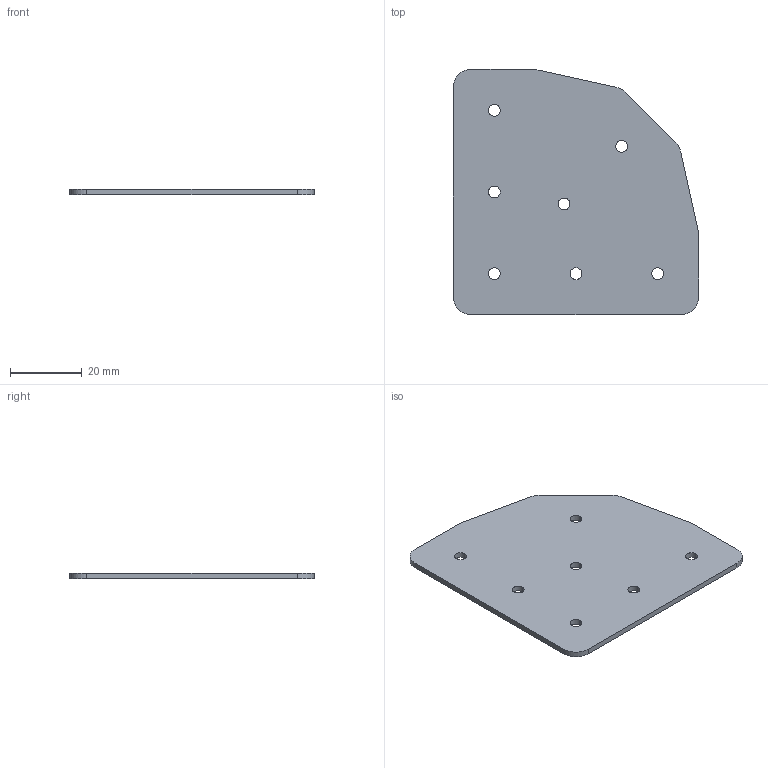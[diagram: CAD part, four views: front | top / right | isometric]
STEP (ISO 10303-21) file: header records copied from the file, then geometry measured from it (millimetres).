
FILE_DESCRIPTION (( 'STEP AP214' ), '1' );
FILE_NAME ('DRP-002-0004-03.step', '2010-06-23T19:07:57', ( '' ), ( '' ), 'SwSTEP 2.0', 'SolidWorks 2010', '' );
FILE_SCHEMA (( 'AUTOMOTIVE_DESIGN' ));
Length unit declared in the file: inch
Products named in the file (1): DRP-002-0004-03
Bounding box: 68.2 x 68.2 x 1.59 mm (x, y, z)
Volume: 6543 mm3; surface area: 8751.5 mm2
Topology: 1 solids, 1 shells, 30 faces, 84 edges, 56 vertices
Faces by surface type: cylinder 21, plane 9
Entity records: 1084 total; most frequent: DIRECTION 188, CARTESIAN_POINT 171, ORIENTED_EDGE 168, EDGE_CURVE 84, AXIS2_PLACEMENT_3D 73, VERTEX_POINT 56, EDGE_LOOP 44, VECTOR 42
